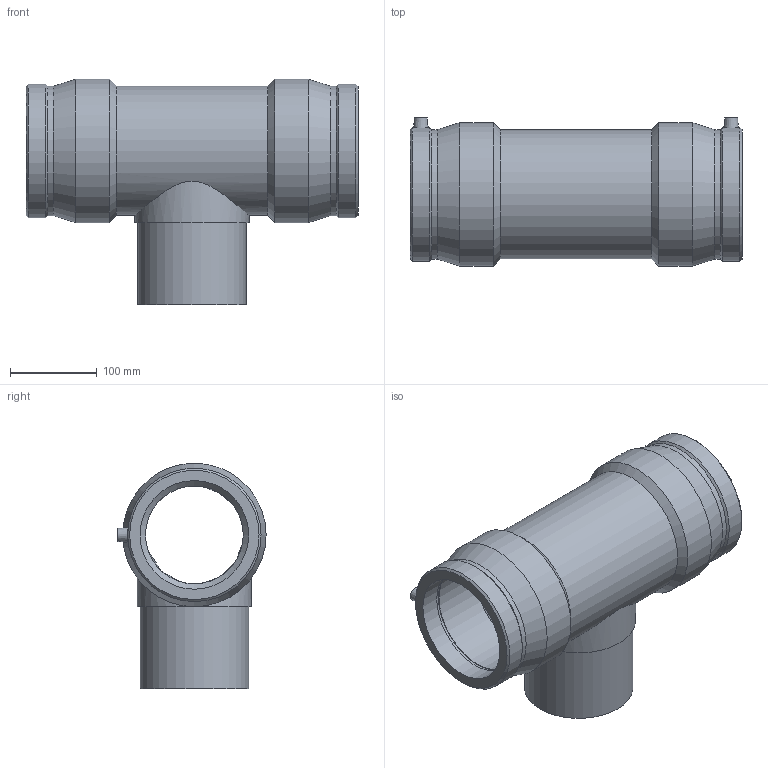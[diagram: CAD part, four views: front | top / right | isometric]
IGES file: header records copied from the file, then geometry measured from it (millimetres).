
Global section: file name: 490404125.ipt; native system: Autodesk Inventor 2015; preprocessor: unknown; author: KIM; date: 20171106.093616; units: millimetre
Bounding box: 382 x 170.5 x 259.5 mm (x, y, z)
Volume: 3297425.5 mm3; surface area: 419449.3 mm2
Topology: 1 solids, 1 shells, 45 faces, 101 edges, 66 vertices
Faces by surface type: plane 12, revolution 12, cylinder 11, cone 10
Full cylindrical faces by diameter (mm): 4 x2, 125 x1, 131.25 x1, 148.5 x1, 148.846 x2, 153.45 x2, 165 x2
